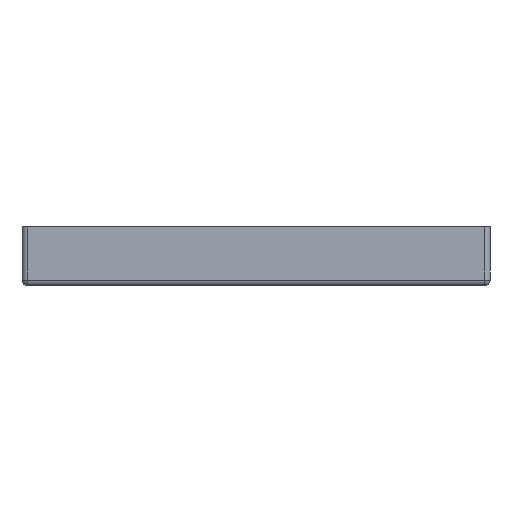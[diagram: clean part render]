
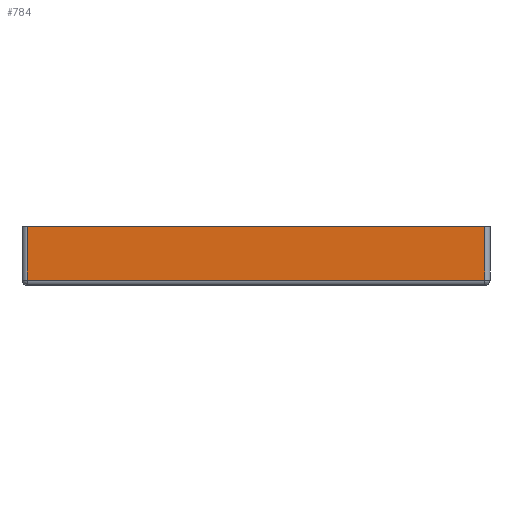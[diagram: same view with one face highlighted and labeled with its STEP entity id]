
A CAD part, front view. The second image highlights one B-rep face of the part: STEP entity #784.
In plain terms, the highlighted planar face has unit normal (0, -1, 0).
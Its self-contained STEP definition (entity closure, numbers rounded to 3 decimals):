
#81 = DIRECTION ( 'NONE',  ( 0., 0., 1. ) ) ;
#280 = CARTESIAN_POINT ( 'NONE',  ( 1194.66, 927.87, -10. ) ) ;
#348 = EDGE_CURVE ( 'NONE', #636, #2153, #1745, .T. ) ;
#457 = VERTEX_POINT ( 'NONE', #1177 ) ;
#636 = VERTEX_POINT ( 'NONE', #903 ) ;
#675 = EDGE_CURVE ( 'NONE', #2153, #457, #705, .T. ) ;
#678 = DIRECTION ( 'NONE',  ( 0., 0., 1. ) ) ;
#699 = EDGE_LOOP ( 'NONE', ( #789, #1752, #1939, #2483 ) ) ;
#705 = LINE ( 'NONE', #2433, #1096 ) ;
#784 = ADVANCED_FACE ( 'NONE', ( #1072 ), #1010, .F. ) ;
#789 = ORIENTED_EDGE ( 'NONE', *, *, #1716, .F. ) ;
#888 = VERTEX_POINT ( 'NONE', #2449 ) ;
#903 = CARTESIAN_POINT ( 'NONE',  ( 1196.66, 927.87, -8. ) ) ;
#1010 = PLANE ( 'NONE',  #1267 ) ;
#1024 = CARTESIAN_POINT ( 'NONE',  ( 1367.56, 927.87, -10. ) ) ;
#1072 = FACE_OUTER_BOUND ( 'NONE', #699, .T. ) ;
#1096 = VECTOR ( 'NONE', #2056, 1000. ) ;
#1177 = CARTESIAN_POINT ( 'NONE',  ( 1367.56, 927.87, 12. ) ) ;
#1211 = DIRECTION ( 'NONE',  ( -1., 0., 0. ) ) ;
#1244 = VECTOR ( 'NONE', #678, 1000. ) ;
#1267 = AXIS2_PLACEMENT_3D ( 'NONE', #280, #1783, #81 ) ;
#1380 = DIRECTION ( 'NONE',  ( 0., 0., -1. ) ) ;
#1466 = VECTOR ( 'NONE', #1380, 1000. ) ;
#1716 = EDGE_CURVE ( 'NONE', #457, #888, #2192, .T. ) ;
#1728 = CARTESIAN_POINT ( 'NONE',  ( 1196.66, 927.87, 12. ) ) ;
#1740 = VECTOR ( 'NONE', #1211, 1000. ) ;
#1745 = LINE ( 'NONE', #1814, #1244 ) ;
#1752 = ORIENTED_EDGE ( 'NONE', *, *, #675, .F. ) ;
#1783 = DIRECTION ( 'NONE',  ( 0., 1., 0. ) ) ;
#1814 = CARTESIAN_POINT ( 'NONE',  ( 1196.66, 927.87, -10. ) ) ;
#1835 = LINE ( 'NONE', #2120, #1740 ) ;
#1939 = ORIENTED_EDGE ( 'NONE', *, *, #348, .F. ) ;
#2056 = DIRECTION ( 'NONE',  ( 1., 0., 0. ) ) ;
#2120 = CARTESIAN_POINT ( 'NONE',  ( 1194.66, 927.87, -8. ) ) ;
#2153 = VERTEX_POINT ( 'NONE', #1728 ) ;
#2168 = EDGE_CURVE ( 'NONE', #888, #636, #1835, .T. ) ;
#2192 = LINE ( 'NONE', #1024, #1466 ) ;
#2433 = CARTESIAN_POINT ( 'NONE',  ( 1194.66, 927.87, 12. ) ) ;
#2449 = CARTESIAN_POINT ( 'NONE',  ( 1367.56, 927.87, -8. ) ) ;
#2483 = ORIENTED_EDGE ( 'NONE', *, *, #2168, .F. ) ;
